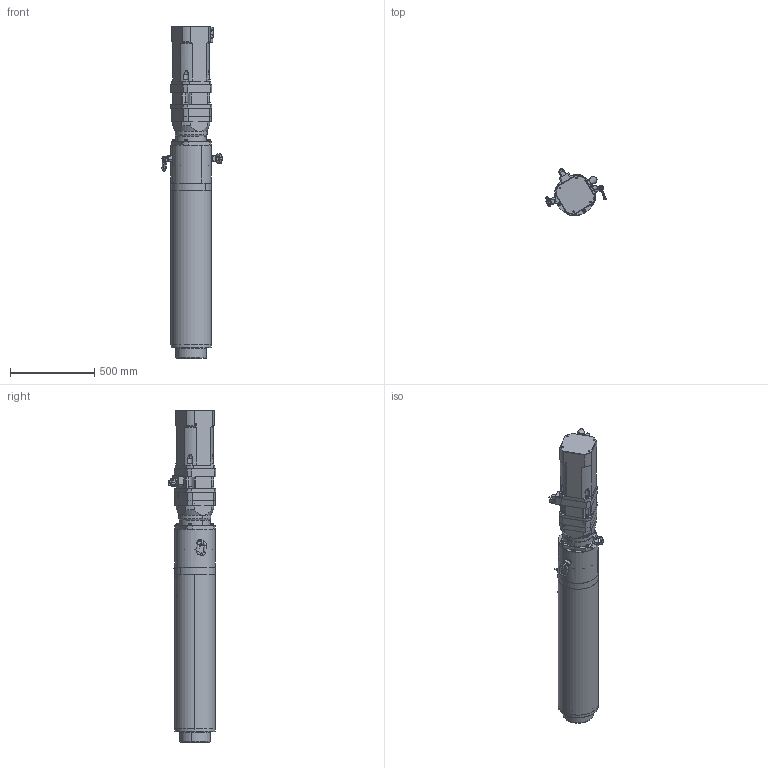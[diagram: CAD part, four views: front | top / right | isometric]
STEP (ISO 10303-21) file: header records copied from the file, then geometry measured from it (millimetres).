
FILE_DESCRIPTION (( 'STEP AP214' ), '1' );
FILE_NAME ('RLWIK200D-055-010SG0.STEP', '2023-04-06T06:25:45', ( '' ), ( '' ), 'SwSTEP 2.0', 'SolidWorks 2021', '' );
FILE_SCHEMA (( 'AUTOMOTIVE_DESIGN' ));
Length unit declared in the file: millimetre
Products named in the file (1): RLWIK200D-055-010SG0
Bounding box: 356.89 x 280.49 x 1971.5 mm (x, y, z)
Surface area: 3874831.7 mm2 (no closed solid volume)
Topology: 0 solids, 43 shells, 1657 faces, 3961 edges, 2412 vertices
Faces by surface type: cylinder 676, plane 613, cone 260, torus 102, bspline 6
Entity records: 67943 total; most frequent: CARTESIAN_POINT 10705, DIRECTION 8588, ORIENTED_EDGE 7602, EDGE_CURVE 3807, AXIS2_PLACEMENT_3D 3361, VERTEX_POINT 2412, EDGE_LOOP 1943, VECTOR 1866
